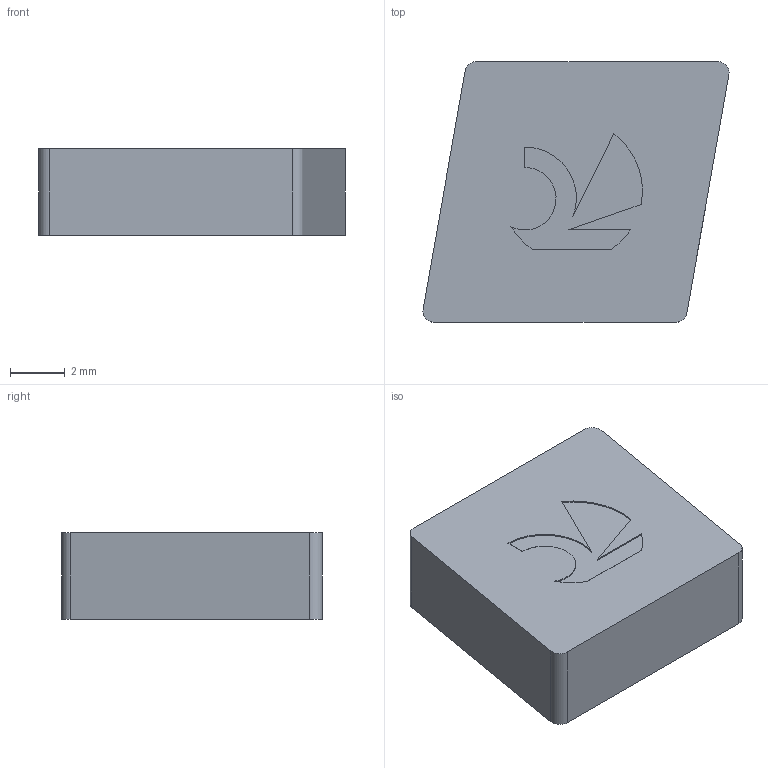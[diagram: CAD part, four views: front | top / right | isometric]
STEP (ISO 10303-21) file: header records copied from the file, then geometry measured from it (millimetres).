
FILE_DESCRIPTION(('no description'),'unknown implementation level');
FILE_NAME('solid0LxDH6D_DIB_lHOfIEAsu0Wp_7I_1.STP',' ',('CIMSOURCE GmbH'),('CADClick - KiM GmbH - www.kimweb.de'),'unknown preprocess','ACIS','unknown authorization');
FILE_SCHEMA(('automotive_design'));
Length unit declared in the file: millimetre
Products named in the file (1): CUT
Bounding box: 11.2 x 9.53 x 3.17 mm (x, y, z)
Volume: 291.6 mm3; surface area: 305.6 mm2
Topology: 1 solids, 1 shells, 22 faces, 57 edges, 38 vertices
Faces by surface type: plane 12, cylinder 10
Entity records: 1366 total; most frequent: DIRECTION 127, CARTESIAN_POINT 120, STYLED_ITEM 118, PRESENTATION_STYLE_ASSIGNMENT 118, COLOUR_RGB 118, ORIENTED_EDGE 114, EDGE_CURVE 57, CURVE_STYLE 57
